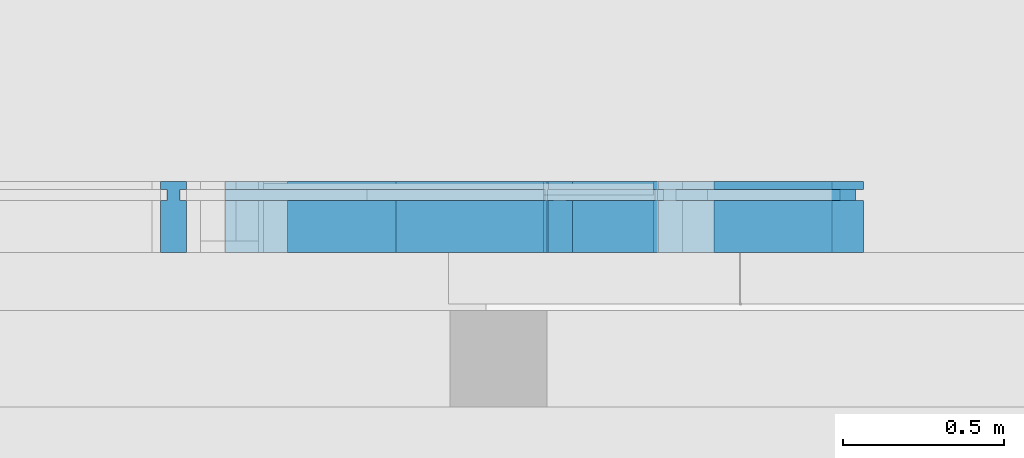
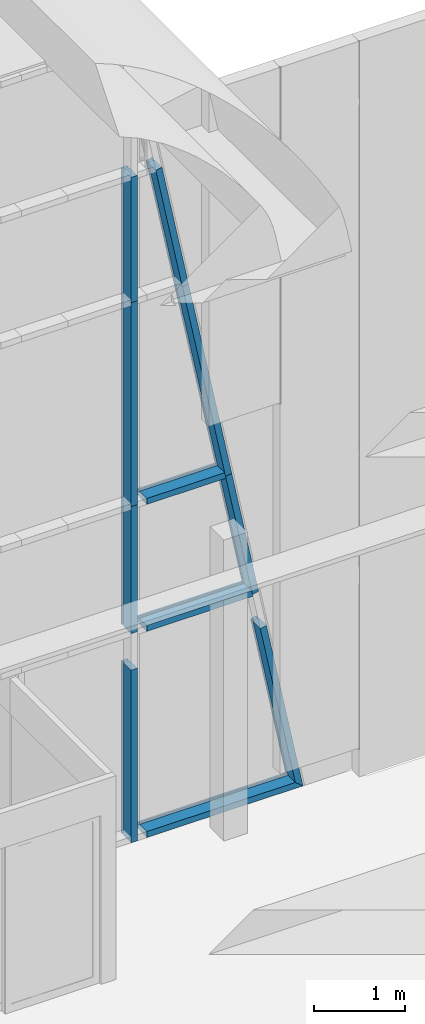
# One storey, part 67 of 302: 11 members, 1 element without a shape of its own.
"""IFC2X3 building model written with IfcOpenShell, lengths in metres."""

from ifc_helpers import new_model, entity, si_unit, converted_unit, derived_unit, direction, frame, origin, place, context, subcontext, project, spatial, polyline, outline, extrude, clip, halfspace, bounded_halfspace, source, transform, mapped, material, type_object, type_shapes, element, aggregate, save


model = new_model("IFC2X3")

# Units and contexts
model_context = context("Model", 3, precision=1e-05, world=origin(), true_north=direction((6.12303176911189e-17, 1.0)))
body_context = subcontext(model_context, "Body", "Model", "MODEL_VIEW")
ifc_project = project(units=[si_unit("LENGTHUNIT", "METRE"), si_unit("AREAUNIT", "SQUARE_METRE"), si_unit("VOLUMEUNIT", "CUBIC_METRE"), converted_unit("PLANEANGLEUNIT", "DEGREE", entity("IfcRatioMeasure", 0.0174532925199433), si_unit("PLANEANGLEUNIT", "RADIAN"), dimensions=[0, 0, 0, 0, 0, 0, 0]), si_unit("MASSUNIT", "GRAM", prefix="KILO"), derived_unit("MASSDENSITYUNIT", [(si_unit("MASSUNIT", "GRAM", prefix="KILO"), 1), (si_unit("LENGTHUNIT", "METRE"), -3)]), derived_unit("MOMENTOFINERTIAUNIT", [(si_unit("LENGTHUNIT", "METRE"), 4)]), si_unit("TIMEUNIT", "SECOND"), si_unit("FREQUENCYUNIT", "HERTZ"), si_unit("THERMODYNAMICTEMPERATUREUNIT", "DEGREE_CELSIUS"), derived_unit("THERMALTRANSMITTANCEUNIT", [(si_unit("MASSUNIT", "GRAM", prefix="KILO"), 1), (si_unit("THERMODYNAMICTEMPERATUREUNIT", "KELVIN"), -1), (si_unit("TIMEUNIT", "SECOND"), -3)]), derived_unit("VOLUMETRICFLOWRATEUNIT", [(si_unit("LENGTHUNIT", "METRE"), 3), (si_unit("TIMEUNIT", "SECOND"), -1)]), si_unit("ELECTRICCURRENTUNIT", "AMPERE"), si_unit("ELECTRICVOLTAGEUNIT", "VOLT"), si_unit("POWERUNIT", "WATT"), si_unit("FORCEUNIT", "NEWTON", prefix="KILO"), si_unit("ILLUMINANCEUNIT", "LUX"), si_unit("LUMINOUSFLUXUNIT", "LUMEN"), si_unit("LUMINOUSINTENSITYUNIT", "CANDELA"), derived_unit("USERDEFINED", [(si_unit("MASSUNIT", "GRAM", prefix="KILO"), -1), (si_unit("LENGTHUNIT", "METRE"), -2), (si_unit("TIMEUNIT", "SECOND"), 3), (si_unit("LUMINOUSFLUXUNIT", "LUMEN"), 1)]), derived_unit("LINEARVELOCITYUNIT", [(si_unit("LENGTHUNIT", "METRE"), 1), (si_unit("TIMEUNIT", "SECOND"), -1)]), si_unit("PRESSUREUNIT", "PASCAL"), derived_unit("USERDEFINED", [(si_unit("LENGTHUNIT", "METRE"), -2), (si_unit("MASSUNIT", "GRAM", prefix="KILO"), 1), (si_unit("TIMEUNIT", "SECOND"), -2)]), derived_unit("LINEARFORCEUNIT", [(si_unit("MASSUNIT", "GRAM", prefix="KILO"), 1), (si_unit("LENGTHUNIT", "METRE"), 1), (si_unit("TIMEUNIT", "SECOND"), -2), (si_unit("LENGTHUNIT", "METRE"), -1)]), derived_unit("PLANARFORCEUNIT", [(si_unit("MASSUNIT", "GRAM", prefix="KILO"), 1), (si_unit("LENGTHUNIT", "METRE"), 1), (si_unit("TIMEUNIT", "SECOND"), -2), (si_unit("LENGTHUNIT", "METRE"), -2)])], contexts=[model_context])

# Site, building, storey
site_placement = place(None, origin())
site = spatial("IfcSite", under=ifc_project, at=site_placement, Name="Default", CompositionType="ELEMENT")
building_placement = place(site_placement, origin())
building = spatial("IfcBuilding", under=site, at=building_placement, CompositionType="ELEMENT")
storey_placement = place(building_placement, frame((0.0, 0.0, -1.3)))
storey = spatial("IfcBuildingStorey", under=building, at=storey_placement, Name="00_EG", CompositionType="ELEMENT", Elevation=-1.3)

# Curtain wall, members
curtain_wall_type = type_object("IfcCurtainWallType", Name="Fassade:Glasfassade", PredefinedType="NOTDEFINED")
curtain_wall_placement = place(storey_placement, frame((0.0, 0.0, 1.3)))
curtain_wall = element("IfcCurtainWall", 1, at=curtain_wall_placement, inside=storey, type_object=curtain_wall_type, Name="Fassade:Glasfassade", ObjectType="Fassade:Glasfassade")
ifc_material = material(Name="Prepainted_Steel-ArcelorMittal_Construction_HAIRULTRA-35-CORAL-4309-[RAL_3000]")
member_type_1 = type_object("IfcMemberType", Name="Rectangular Mullion:Fassadenrahmen Typ 1", PredefinedType="MULLION", material=ifc_material)
shared_shape_1 = source(origin(), body_context, "Body", "SweptSolid", [
    extrude(outline(polyline([(-0.065, -0.04), (-0.04, -0.04), (-0.04, -0.02), (-0.00499999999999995, -0.02), (-0.00499999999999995, -0.04), (0.155, -0.04), (0.155, 0.04), (-0.00499999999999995, 0.04), (-0.00499999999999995, 0.02), (-0.04, 0.02), (-0.04, 0.04), (-0.065, 0.04), (-0.065, -0.04)])), frame((0.0, 0.155, -2.72999999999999), z_axis=(0.0, 0.0, 1.0), x_axis=(0.0, -1.0, 0.0)), (0.0, 0.0, 1.0), 2.72999999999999),
])
type_shapes(member_type_1, [shared_shape_1])
member_1_placement = place(storey_placement, frame((-228.3679697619, 45.738088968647, 5.77), z_axis=(0.0, 0.0, -1.0), x_axis=(-1.0, 0.0, 0.0)))
member_1 = element("IfcMember", 2, at=member_1_placement, type_object=member_type_1, material=ifc_material, Name="Rectangular Mullion:Fassadenrahmen Typ 1", ObjectType="Rectangular Mullion:Fassadenrahmen Typ 1", context=body_context, shape_type="MappedRepresentation", body=[
    mapped(shared_shape_1, transform((0.0, 0.0, 0.0), scale=1.0)),
])
member_type_2 = type_object("IfcMemberType", Name="Rectangular Mullion:Fassadenrahmen Typ 1", PredefinedType="MULLION", material=ifc_material)
shared_shape_2 = source(origin(), body_context, "Body", "SweptSolid", [
    extrude(outline(polyline([(-0.065, -0.04), (-0.04, -0.04), (-0.04, -0.02), (-0.00499999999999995, -0.02), (-0.00499999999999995, -0.04), (0.155, -0.04), (0.155, 0.04), (-0.00499999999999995, 0.04), (-0.00499999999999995, 0.02), (-0.04, 0.02), (-0.04, 0.04), (-0.065, 0.04), (-0.065, -0.04)])), frame((0.0, 0.155, -1.68000000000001), z_axis=(0.0, 0.0, 1.0), x_axis=(0.0, -1.0, 0.0)), (0.0, 0.0, 1.0), 1.68000000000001),
])
type_shapes(member_type_2, [shared_shape_2])
member_2_placement = place(storey_placement, frame((-228.3679697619, 45.738088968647, 8.49999999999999), z_axis=(0.0, 0.0, -1.0), x_axis=(-1.0, 0.0, 0.0)))
member_2 = element("IfcMember", 3, at=member_2_placement, type_object=member_type_2, material=ifc_material, Name="Rectangular Mullion:Fassadenrahmen Typ 1", ObjectType="Rectangular Mullion:Fassadenrahmen Typ 1", context=body_context, shape_type="MappedRepresentation", body=[
    mapped(shared_shape_2, transform((0.0, 0.0, 0.0), scale=1.0)),
])
member_type_3 = type_object("IfcMemberType", Name="Rectangular Mullion:Fassadenrahmen Typ 1", PredefinedType="MULLION", material=ifc_material)
shared_shape_3 = source(origin(), body_context, "Body", "SweptSolid", [
    extrude(outline(polyline([(-0.065, -0.04), (-0.04, -0.04), (-0.04, -0.02), (-0.00499999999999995, -0.02), (-0.00499999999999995, -0.04), (0.155, -0.04), (0.155, 0.04), (-0.00499999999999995, 0.04), (-0.00499999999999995, 0.02), (-0.04, 0.02), (-0.04, 0.04), (-0.065, 0.04), (-0.065, -0.04)])), frame((0.0, 0.155, -1.7), z_axis=(0.0, 0.0, 1.0), x_axis=(0.0, -1.0, 0.0)), (0.0, 0.0, 1.0), 1.7),
])
type_shapes(member_type_3, [shared_shape_3])
member_3_placement = place(storey_placement, frame((-228.3679697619, 45.738088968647, 4.06999999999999), z_axis=(0.0, 0.0, -1.0), x_axis=(-1.0, 0.0, 0.0)))
member_3 = element("IfcMember", 4, at=member_3_placement, type_object=member_type_3, material=ifc_material, Name="Rectangular Mullion:Fassadenrahmen Typ 1", ObjectType="Rectangular Mullion:Fassadenrahmen Typ 1", context=body_context, shape_type="MappedRepresentation", body=[
    mapped(shared_shape_3, transform((0.0, 0.0, 0.0), scale=1.0)),
])
member_type_4 = type_object("IfcMemberType", Name="Rectangular Mullion:Fassadenrahmen Typ 1", PredefinedType="MULLION", material=ifc_material)
shared_shape_4 = source(origin(), body_context, "Body", "SweptSolid", [
    extrude(outline(polyline([(-0.065, -0.04), (-0.04, -0.04), (-0.04, -0.02), (-0.00499999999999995, -0.02), (-0.00499999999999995, -0.04), (0.155, -0.04), (0.155, 0.04), (-0.00499999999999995, 0.04), (-0.00499999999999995, 0.02), (-0.04, 0.02), (-0.04, 0.04), (-0.065, 0.04), (-0.065, -0.04)])), frame((0.0, 0.155, -2.30999999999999), z_axis=(0.0, 0.0, 1.0), x_axis=(0.0, -1.0, 0.0)), (0.0, 0.0, 1.0), 2.30999999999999),
])
type_shapes(member_type_4, [shared_shape_4])
member_4_placement = place(storey_placement, frame((-228.3679697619, 45.738088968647, 1.27), z_axis=(0.0, 0.0, -1.0), x_axis=(-1.0, 0.0, 0.0)))
member_4 = element("IfcMember", 5, at=member_4_placement, type_object=member_type_4, material=ifc_material, Name="Rectangular Mullion:Fassadenrahmen Typ 1", ObjectType="Rectangular Mullion:Fassadenrahmen Typ 1", context=body_context, shape_type="MappedRepresentation", body=[
    mapped(shared_shape_4, transform((0.0, 0.0, 0.0), scale=1.0)),
])
member_type_5 = type_object("IfcMemberType", Name="Rectangular Mullion:Fassadenrahmen Typ 1", PredefinedType="MULLION", material=ifc_material)
shared_shape_5 = source(origin(), body_context, "Body", "Clipping", [
    clip(clip(extrude(outline(polyline([(-0.065, -0.04), (-0.04, -0.04), (-0.04, -0.02), (-0.00499999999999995, -0.02), (-0.00499999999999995, -0.04), (0.155, -0.04), (0.155, 0.04), (-0.00499999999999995, 0.04), (-0.00499999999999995, 0.02), (-0.04, 0.02), (-0.04, 0.04), (-0.065, 0.04), (-0.065, -0.04)])), frame((0.0, 0.155, -1.00368105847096), z_axis=(0.0, 0.0, 1.0), x_axis=(0.0, -1.0, 0.0)), (0.0, 0.0, 1.0), 1.00368105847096), bounded_halfspace(frame((-0.0157286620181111, 91.44, -0.99881412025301), z_axis=(0.196608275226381, 0.0, -0.980482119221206), x_axis=(-0.980482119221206, 0.0, -0.196608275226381)), False, frame((0.0, 0.155, -1.00368105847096), z_axis=(0.0, 0.0, 1.0), x_axis=(0.0, -1.0, 0.0)), polyline([(0.155, -0.0157286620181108), (0.155, -0.04), (-0.00499999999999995, -0.04), (-0.00499999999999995, -0.02), (-0.04, -0.02), (-0.04, -0.04), (-0.065, -0.04), (-0.0649999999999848, -0.0157286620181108), (0.155, -0.0157286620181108)]))), bounded_halfspace(frame((2.71427133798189, 91.44, -0.451388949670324), z_axis=(0.196608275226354, 0.0, -0.980482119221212), x_axis=(-0.980482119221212, 0.0, -0.196608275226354)), False, frame((0.0, 0.155, -1.00368105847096), z_axis=(0.0, 0.0, 1.0), x_axis=(0.0, -1.0, 0.0)), polyline([(0.155, 0.04), (0.155, -0.0157286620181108), (-0.065, -0.0157286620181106), (-0.065, 0.04), (-0.04, 0.04), (-0.04, 0.02), (-0.00499999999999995, 0.02), (-0.00499999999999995, 0.04), (0.155, 0.04)]))),
])
type_shapes(member_type_5, [shared_shape_5])
member_5_placement = place(storey_placement, frame((-228.207969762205, 45.738088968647, 5.77), z_axis=(-1.0, 0.0, 0.0), x_axis=(0.0, 0.0, 1.0)))
member_5 = element("IfcMember", 6, at=member_5_placement, type_object=member_type_5, material=ifc_material, Name="Rectangular Mullion:Fassadenrahmen Typ 1", ObjectType="Rectangular Mullion:Fassadenrahmen Typ 1", context=body_context, shape_type="MappedRepresentation", body=[
    mapped(shared_shape_5, transform((0.0, 0.0, 0.0), scale=1.0)),
])
member_type_6 = type_object("IfcMemberType", Name="Rectangular Mullion:Fassadenrahmen Typ 1", PredefinedType="MULLION", material=ifc_material)
shared_shape_6 = source(origin(), body_context, "Body", "Clipping", [
    clip(clip(extrude(outline(polyline([(-0.065, -0.04), (-0.04, -0.04), (-0.04, -0.02), (-0.00499999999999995, -0.02), (-0.00499999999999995, -0.04), (0.155, -0.04), (0.155, 0.04), (-0.00499999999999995, 0.04), (-0.00499999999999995, 0.02), (-0.04, 0.02), (-0.04, 0.04), (-0.065, 0.04), (-0.065, -0.04)])), frame((0.0, 0.155, -1.34456852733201), z_axis=(0.0, 0.0, 1.0), x_axis=(0.0, -1.0, 0.0)), (0.0, 0.0, 1.0), 1.34456852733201), bounded_halfspace(frame((-0.0157286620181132, 91.44, -1.33970158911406), z_axis=(0.196608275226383, 0.0, -0.980482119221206), x_axis=(-0.980482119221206, 0.0, -0.196608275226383)), False, frame((0.0, 0.155, -1.34456852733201), z_axis=(0.0, 0.0, 1.0), x_axis=(0.0, -1.0, 0.0)), polyline([(0.155, -0.0157286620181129), (0.155, -0.04), (-0.00499999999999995, -0.04), (-0.00499999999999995, -0.02), (-0.04, -0.02), (-0.04, -0.04), (-0.065, -0.04), (-0.0650000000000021, -0.015728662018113), (0.155, -0.0157286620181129)]))), bounded_halfspace(frame((1.68427133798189, 91.44, -0.998814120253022), z_axis=(0.196608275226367, 0.0, -0.980482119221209), x_axis=(-0.980482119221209, 0.0, -0.196608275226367)), False, frame((0.0, 0.155, -1.34456852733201), z_axis=(0.0, 0.0, 1.0), x_axis=(0.0, -1.0, 0.0)), polyline([(0.155, 0.04), (0.155, -0.015728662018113), (-0.065, -0.0157286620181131), (-0.065, 0.04), (-0.04, 0.04), (-0.04, 0.02), (-0.00499999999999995, 0.02), (-0.00499999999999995, 0.04), (0.155, 0.04)]))),
])
type_shapes(member_type_6, [shared_shape_6])
member_6_placement = place(storey_placement, frame((-228.207969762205, 45.738088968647, 4.06999999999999), z_axis=(-1.0, 0.0, 0.0), x_axis=(0.0, 0.0, 1.0)))
member_6 = element("IfcMember", 7, at=member_6_placement, type_object=member_type_6, material=ifc_material, Name="Rectangular Mullion:Fassadenrahmen Typ 1", ObjectType="Rectangular Mullion:Fassadenrahmen Typ 1", context=body_context, shape_type="MappedRepresentation", body=[
    mapped(shared_shape_6, transform((0.0, 0.0, 0.0), scale=1.0)),
])
member_type_7 = type_object("IfcMemberType", Name="Rectangular Mullion:Fassadenrahmen Typ 1", PredefinedType="MULLION", material=ifc_material)
shared_shape_7 = source(origin(), body_context, "Body", "Clipping", [
    clip(extrude(outline(polyline([(-0.065, -0.04), (-0.04, -0.04), (-0.04, -0.02), (-0.00499999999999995, -0.02), (-0.00499999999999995, -0.04), (0.155, -0.04), (0.155, 0.04), (-0.00499999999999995, 0.04), (-0.00499999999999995, 0.02), (-0.04, 0.02), (-0.04, 0.04), (-0.065, 0.04), (-0.065, -0.04)])), frame((-0.04, 0.155, -2.35598381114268), z_axis=(0.0, 0.0, 1.0), x_axis=(0.0, -1.0, 0.0)), (0.0, 0.0, 1.0), 2.35598381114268), halfspace(frame((0.0, -0.3048, -2.35598381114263), z_axis=(-0.773501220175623, 0.0, -0.633794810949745), x_axis=(-0.633794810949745, 0.0, 0.773501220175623)), False)),
])
type_shapes(member_type_7, [shared_shape_7])
member_7_placement = place(storey_placement, frame((-226.691573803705, 45.738088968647, 3.57999999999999), z_axis=(-0.196608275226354, 0.0, 0.980482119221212), x_axis=(0.980482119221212, 0.0, 0.196608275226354)))
member_7 = element("IfcMember", 8, at=member_7_placement, type_object=member_type_7, material=ifc_material, Name="Rectangular Mullion:Fassadenrahmen Typ 1", ObjectType="Rectangular Mullion:Fassadenrahmen Typ 1", context=body_context, shape_type="MappedRepresentation", body=[
    mapped(shared_shape_7, transform((0.0, 0.0, 0.0), scale=1.0)),
])
member_type_8 = type_object("IfcMemberType", Name="Rectangular Mullion:Fassadenrahmen Typ 1", PredefinedType="MULLION", material=ifc_material)
shared_shape_8 = source(origin(), body_context, "Body", "SweptSolid", [
    extrude(outline(polyline([(-0.065, -0.04), (-0.04, -0.04), (-0.04, -0.02), (-0.00499999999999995, -0.02), (-0.00499999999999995, -0.04), (0.155, -0.04), (0.155, 0.04), (-0.00499999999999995, 0.04), (-0.00499999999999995, 0.02), (-0.04, 0.02), (-0.04, 0.04), (-0.065, 0.04), (-0.065, -0.04)])), frame((-0.04, 0.155, -1.73384089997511), z_axis=(0.0, 0.0, 1.0), x_axis=(0.0, -1.0, 0.0)), (0.0, 0.0, 1.0), 1.73384089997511),
])
type_shapes(member_type_8, [shared_shape_8])
member_8_placement = place(storey_placement, frame((-227.130717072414, 45.738088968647, 5.77), z_axis=(-0.196608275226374, 0.0, 0.980482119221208), x_axis=(0.980482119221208, 0.0, 0.196608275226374)))
member_8 = element("IfcMember", 9, at=member_8_placement, type_object=member_type_8, material=ifc_material, Name="Rectangular Mullion:Fassadenrahmen Typ 1", ObjectType="Rectangular Mullion:Fassadenrahmen Typ 1", context=body_context, shape_type="MappedRepresentation", body=[
    mapped(shared_shape_8, transform((0.0, 0.0, 0.0), scale=1.0)),
])
member_type_9 = type_object("IfcMemberType", Name="Rectangular Mullion:Fassadenrahmen Typ 1", PredefinedType="MULLION", material=ifc_material)
shared_shape_9 = source(origin(), body_context, "Body", "SweptSolid", [
    extrude(outline(polyline([(-0.065, -0.04), (-0.04, -0.04), (-0.04, -0.02), (-0.00499999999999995, -0.02), (-0.00499999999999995, -0.04), (0.155, -0.04), (0.155, 0.04), (-0.00499999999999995, 0.04), (-0.00499999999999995, 0.02), (-0.04, 0.02), (-0.04, 0.04), (-0.065, 0.04), (-0.065, -0.04)])), frame((-0.04, 0.155, -2.78434450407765), z_axis=(0.0, 0.0, 1.0), x_axis=(0.0, -1.0, 0.0)), (0.0, 0.0, 1.0), 2.78434450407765),
])
type_shapes(member_type_9, [shared_shape_9])
member_9_placement = place(storey_placement, frame((-227.678142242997, 45.738088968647, 8.49999999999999), z_axis=(-0.196608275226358, 0.0, 0.980482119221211), x_axis=(0.980482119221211, 0.0, 0.196608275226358)))
member_9 = element("IfcMember", 10, at=member_9_placement, type_object=member_type_9, material=ifc_material, Name="Rectangular Mullion:Fassadenrahmen Typ 1", ObjectType="Rectangular Mullion:Fassadenrahmen Typ 1", context=body_context, shape_type="MappedRepresentation", body=[
    mapped(shared_shape_9, transform((0.0, 0.0, 0.0), scale=1.0)),
])
member_type_10 = type_object("IfcMemberType", Name="Rectangular Mullion:Fassadenrahmen Typ 1", PredefinedType="MULLION", material=ifc_material)
shared_shape_10 = source(origin(), body_context, "Body", "SweptSolid", [
    extrude(outline(polyline([(-0.065, -0.04), (-0.04, -0.04), (-0.04, -0.02), (-0.00499999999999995, -0.02), (-0.00499999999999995, -0.04), (0.155, -0.04), (0.155, 0.04), (-0.00499999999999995, 0.04), (-0.00499999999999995, 0.02), (-0.04, 0.02), (-0.04, 0.04), (-0.065, 0.04), (-0.065, -0.04)])), frame((-0.04, 0.155, -1.7134427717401), z_axis=(0.0, 0.0, 1.0), x_axis=(0.0, -1.0, 0.0)), (0.0, 0.0, 1.0), 1.7134427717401),
])
type_shapes(member_type_10, [shared_shape_10])
member_10_placement = place(storey_placement, frame((-228.015019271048, 45.738088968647, 10.18), z_axis=(-0.196608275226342, 0.0, 0.980482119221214), x_axis=(0.980482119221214, 0.0, 0.196608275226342)))
member_10 = element("IfcMember", 11, at=member_10_placement, type_object=member_type_10, material=ifc_material, Name="Rectangular Mullion:Fassadenrahmen Typ 1", ObjectType="Rectangular Mullion:Fassadenrahmen Typ 1", context=body_context, shape_type="MappedRepresentation", body=[
    mapped(shared_shape_10, transform((0.0, 0.0, 0.0), scale=1.0)),
])
member_type_11 = type_object("IfcMemberType", Name="Rectangular Mullion:Fassadenrahmen Typ 1", PredefinedType="MULLION", material=ifc_material)
shared_shape_11 = source(origin(), body_context, "Body", "Clipping", [
    clip(extrude(outline(polyline([(-0.0649999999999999, -0.04), (-0.04, -0.04), (-0.04, -0.02), (-0.00499999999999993, -0.02), (-0.00499999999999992, -0.04), (0.155, -0.0399999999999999), (0.155, 0.0400000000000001), (-0.00499999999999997, 0.04), (-0.00499999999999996, 0.02), (-0.04, 0.02), (-0.04, 0.04), (-0.065, 0.0399999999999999), (-0.0649999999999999, -0.04)])), frame((-0.04, 0.155, -1.97960187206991), z_axis=(0.0, 0.0, 1.0), x_axis=(0.0, -1.0, 0.0)), (0.0, 0.0, 1.0), 1.97960187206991), halfspace(frame((0.0, -0.3048, 0.0), z_axis=(-0.773501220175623, 0.0, 0.633794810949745), x_axis=(-0.633794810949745, 0.0, -0.773501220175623)), False)),
])
type_shapes(member_type_11, [shared_shape_11])
member_11_placement = place(storey_placement, frame((-226.228367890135, 45.738088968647, 1.27), z_axis=(1.0, 0.0, 0.0), x_axis=(0.0, 0.0, -1.0)))
member_11 = element("IfcMember", 12, at=member_11_placement, type_object=member_type_11, material=ifc_material, Name="Rectangular Mullion:Fassadenrahmen Typ 1", ObjectType="Rectangular Mullion:Fassadenrahmen Typ 1", context=body_context, shape_type="MappedRepresentation", body=[
    mapped(shared_shape_11, transform((0.0, 0.0, 0.0), scale=1.0)),
])
aggregate(curtain_wall, [member_3, member_1, member_2, member_4, member_5, member_6, member_7, member_8, member_9, member_10, member_11])

save(model, "model.ifc")
